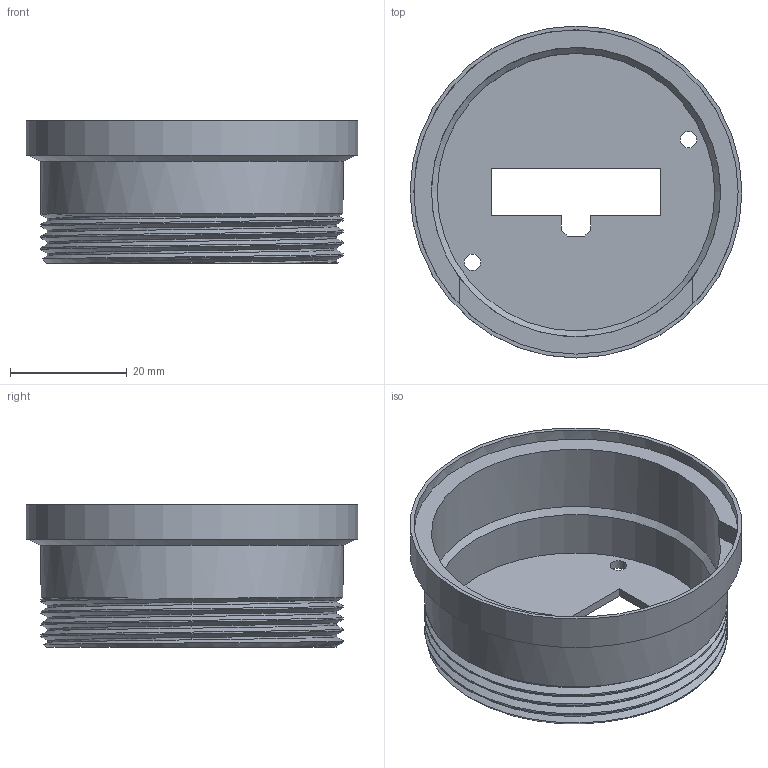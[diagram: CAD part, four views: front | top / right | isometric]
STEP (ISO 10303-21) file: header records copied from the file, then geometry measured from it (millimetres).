
FILE_DESCRIPTION(/* description */ (''),/* implementation_level */ '2;1');
FILE_NAME(/* name */ 'ghjghgjh.step',/* time_stamp */ '2026-07-28T01:29:53+10:00',/* author */ (''),/* organization */ (''),/* preprocessor_version */ 'ST-DEVELOPER v20.1',/* originating_system */ 'Autodesk Translation Framework v15.8.0.0',/* authorisation */ '');
FILE_SCHEMA (('AUTOMOTIVE_DESIGN { 1 0 10303 214 3 1 1 }'));
Length unit declared in the file: millimetre
Products named in the file (9): 2026-03-20-13-39-26-969; 2026-03-20-15-27-04-581; 2026-04-29-20-44-37-344; 2026-04-29-20-45-04-742; 2026-03-20-17-35-57-705; 2026-04-29-20-44-37-372; 2026-04-29-20-45-04-757; 2026-04-29-20-44-37-367; 2026-04-29-20-45-04-759
Assembly tree (8 placements, depth 4):
  2026-03-20-13-39-26-969
    2026-03-20-15-27-04-581
      2026-04-29-20-44-37-344
        2026-04-29-20-45-04-742
    2026-03-20-17-35-57-705
      2026-04-29-20-44-37-372
        2026-04-29-20-45-04-757
    2026-04-29-20-44-37-367
      2026-04-29-20-45-04-759
Bounding box: 56.8 x 56.8 x 24.45 mm (x, y, z)
Volume: 8744 mm3; surface area: 12843.9 mm2
Topology: 1 solids, 1 shells, 40 faces, 107 edges, 71 vertices
Faces by surface type: plane 19, cylinder 15, cone 4, bspline 2
Full cylindrical faces by diameter (mm): 2.8 x2, 47.5 x1, 49.5 x1, 49.524 x3, 51.822 x3, 55.5 x1, 56.8 x1
Entity records: 3064 total; most frequent: CARTESIAN_POINT 1889, ORIENTED_EDGE 214, DIRECTION 212, EDGE_CURVE 107, AXIS2_PLACEMENT_3D 79, VERTEX_POINT 71, LINE 54, VECTOR 54
